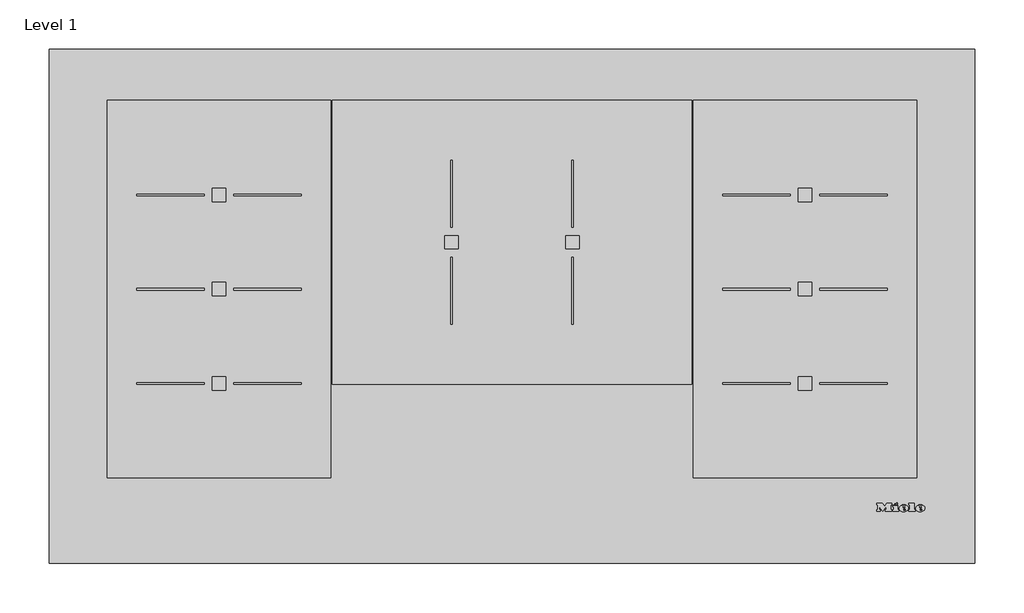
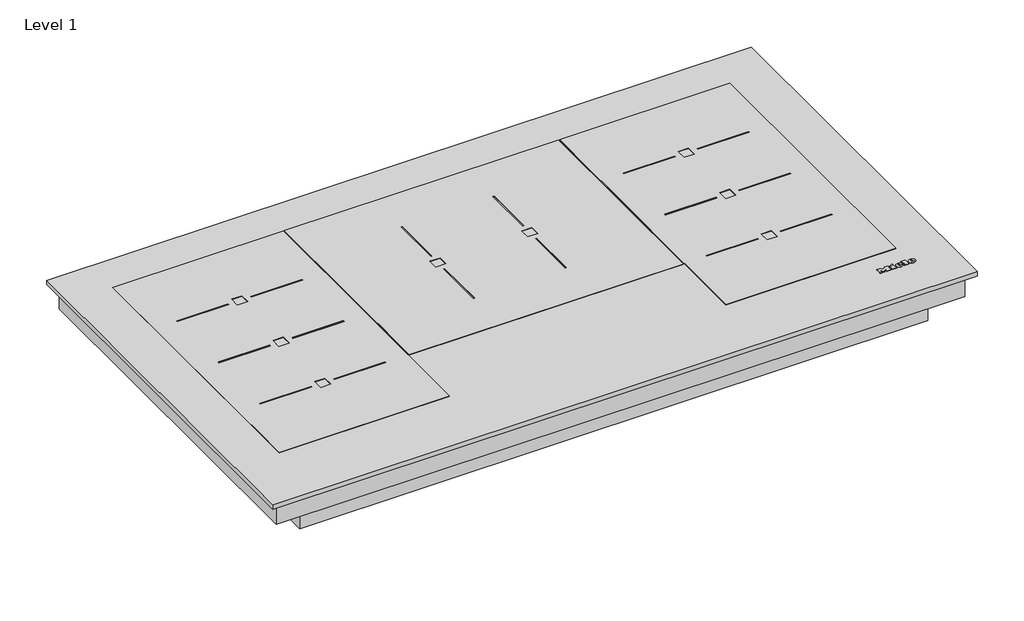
# One storey: 1 proxy.
"""IFC4 building model written with IfcOpenShell, lengths in millimetres."""

from ifc_helpers import new_model, si_unit, origin, place, context, project, spatial, transform, mapped, element, save
from components import specialty_equipment_02190315

model = new_model("IFC4")

# Units and contexts
model_context = context("Model", 3, world=origin())
ifc_project = project(units=[si_unit("LENGTHUNIT", "METRE", prefix="MILLI")], contexts=[model_context])

# Site, building, storey
site = spatial("IfcSite", under=ifc_project)
building = spatial("IfcBuilding", under=site)
storey = spatial("IfcBuildingStorey", under=building, Name="Level 1", Elevation=0.0)

# Proxy
placement = place(None, origin())
specialty_equipment_shape = specialty_equipment_02190315(model_context)
element("IfcBuildingElementProxy", 1, Name="11128800_D_KM7999FL : 26799970_D_11128800_KM7999FL", ObjectType="11128800_D_KM7999FL : 26799970_D_11128800_KM7999FL", at=placement, inside=storey, context=model_context, shape_type="MappedRepresentation", body=[
    mapped(specialty_equipment_shape, transform((0.0, 0.0, 0.0), x_axis=(1.0, 0.0, 0.0), y_axis=(0.0, 1.0, 0.0), z_axis=(0.0, 0.0, 1.0))),
])

save(model, "model.ifc")
